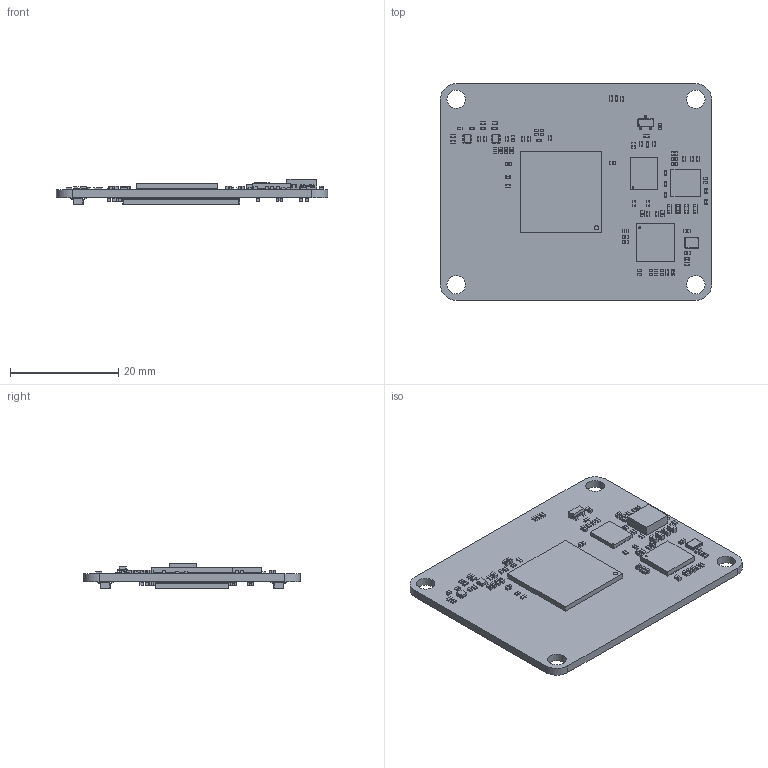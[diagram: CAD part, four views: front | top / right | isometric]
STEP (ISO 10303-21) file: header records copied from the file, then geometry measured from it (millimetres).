
FILE_DESCRIPTION(('KiCad electronic assembly'),'2;1');
FILE_NAME('xlm2101.step','2025-10-01T15:04:39',('Pcbnew'),('Kicad'), 'Open CASCADE STEP processor 7.6','KiCad to STEP converter','Unknown' );
FILE_SCHEMA(('AUTOMOTIVE_DESIGN { 1 0 10303 214 1 1 1 1 }'));
Length unit declared in the file: millimetre
Products named in the file (1416): xlm2101 1; TOSHIBA_SSM6N35AFE_LF_ES6; Lead1; Lead6; Lead2; Lead3; Lead5; Lead4; Mold; R_0402_1005Metric; Solid1; Solid2; Solid3; LED_XZxx68x-2; BGA-324_15.0x15.0mm_Layout18x18_P0.8mm_Ball0.5mm_Pad0.4mm_NSMD; FB_0402_1005Metric; MPS_MPM54322; xlm2101 1.12.1; C_0402_1005Metric; SOT-23; C_0603_1608Metric; WINBOND_W25Q128JVPIQ; MICROCHIP_VQFN48_MAC_MCH; ECS-250-18-36-AGM-TR; HIROSE_DF40C-60DP; DF40C-40DP-0.4V.1; DF40C-100DP; DF40C-100DP-0.4V; xlm2101_PCB
Assembly tree (1529 placements, depth 3):
  xlm2101 1
    TOSHIBA_SSM6N35AFE_LF_ES6  x2
      Lead1
      Lead6
      Lead2
      Lead3
      Lead5
      Lead4
      Mold
    R_0402_1005Metric  x39
      Solid1
      Solid2
      Solid2
      Solid3
    LED_XZxx68x-2  x3
    BGA-324_15.0x15.0mm_Layout18x18_P0.8mm_Ball0.5mm_Pad0.4mm_NSMD
    FB_0402_1005Metric  x8
    MPS_MPM54322
      xlm2101 1.12.1
    C_0402_1005Metric  x63
    SOT-23
    C_0603_1608Metric  x4
    WINBOND_W25Q128JVPIQ
    MICROCHIP_VQFN48_MAC_MCH
    ECS-250-18-36-AGM-TR
    HIROSE_DF40C-60DP
      DF40C-40DP-0.4V.1
      DF40C-40DP-0.4V.1
      DF40C-40DP-0.4V.1
      DF40C-40DP-0.4V.1
      DF40C-40DP-0.4V.1
      DF40C-40DP-0.4V.1
      DF40C-40DP-0.4V.1
      DF40C-40DP-0.4V.1
      DF40C-40DP-0.4V.1
      DF40C-40DP-0.4V.1
      DF40C-40DP-0.4V.1
      DF40C-40DP-0.4V.1
      DF40C-40DP-0.4V.1
      DF40C-40DP-0.4V.1
      DF40C-40DP-0.4V.1
      DF40C-40DP-0.4V.1
      DF40C-40DP-0.4V.1
      DF40C-40DP-0.4V.1
      DF40C-40DP-0.4V.1
      DF40C-40DP-0.4V.1
      DF40C-40DP-0.4V.1
      DF40C-40DP-0.4V.1
      DF40C-40DP-0.4V.1
      DF40C-40DP-0.4V.1
      DF40C-40DP-0.4V.1
      DF40C-40DP-0.4V.1
      DF40C-40DP-0.4V.1
      DF40C-40DP-0.4V.1
      DF40C-40DP-0.4V.1
      DF40C-40DP-0.4V.1
      DF40C-40DP-0.4V.1
      DF40C-40DP-0.4V.1
      DF40C-40DP-0.4V.1
      DF40C-40DP-0.4V.1
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Bounding box: 50 x 40 x 4.62 mm (x, y, z)
Volume: 3350.6 mm3; surface area: 6303.8 mm2
Topology: 543 solids, 3254 shells, 8491 faces, 29985 edges, 25111 vertices
Faces by surface type: bspline 5123, plane 3130, cylinder 138, sphere 100
Full cylindrical faces by diameter (mm): 0.351 x1, 0.8 x1, 3.4 x4
Entity records: 162405 total; most frequent: CARTESIAN_POINT 61077, ORIENTED_EDGE 17922, EDGE_CURVE 13291, VERTEX_POINT 11631, B_SPLINE_CURVE_WITH_KNOTS 8853, DIRECTION 7219, FACE_BOUND 3368, EDGE_LOOP 3368
